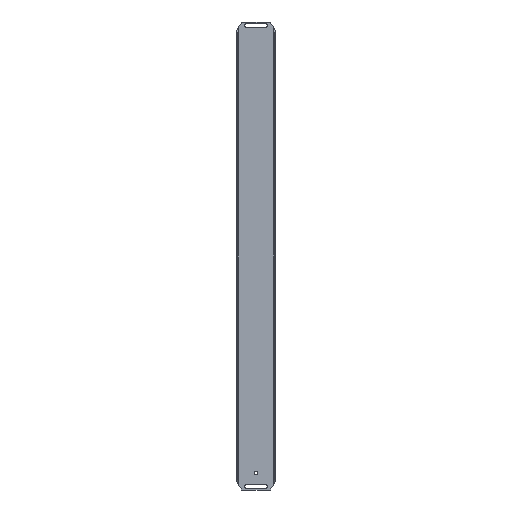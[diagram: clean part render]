
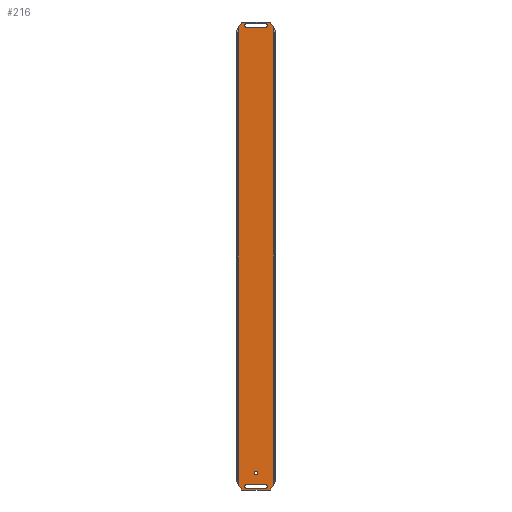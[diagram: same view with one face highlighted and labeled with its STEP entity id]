
A CAD part, front view. The second image highlights one B-rep face of the part: STEP entity #216.
In plain terms, the highlighted planar face has unit normal (0, -1, 0).
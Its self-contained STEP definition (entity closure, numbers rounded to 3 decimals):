
#9 = FACE_OUTER_BOUND ( 'NONE', #36, .T. ) ;
#17 = LINE ( 'NONE', #1031, #84 ) ;
#24 = EDGE_CURVE ( 'NONE', #328, #1124, #952, .T. ) ;
#32 = LINE ( 'NONE', #330, #900 ) ;
#33 = CARTESIAN_POINT ( 'NONE',  ( -29.9, -1.2, -399.781 ) ) ;
#36 = EDGE_LOOP ( 'NONE', ( #551, #437, #402, #953, #1019, #409, #1159, #983 ) ) ;
#64 = CARTESIAN_POINT ( 'NONE',  ( 26.145, -1.2, -410.25 ) ) ;
#69 = EDGE_CURVE ( 'NONE', #169, #622, #184, .T. ) ;
#82 = CARTESIAN_POINT ( 'NONE',  ( 1.2, -1.2, -380.25 ) ) ;
#84 = VECTOR ( 'NONE', #1145, 1000. ) ;
#87 = VECTOR ( 'NONE', #392, 1000. ) ;
#102 = DIRECTION ( 'NONE',  ( 0., 1., 0. ) ) ;
#107 = VECTOR ( 'NONE', #1270, 1000. ) ;
#124 = CARTESIAN_POINT ( 'NONE',  ( -29.9, -1.2, 399.781 ) ) ;
#156 = LINE ( 'NONE', #1053, #1155 ) ;
#169 = VERTEX_POINT ( 'NONE', #195 ) ;
#171 = CIRCLE ( 'NONE', #217, 3.25 ) ;
#181 = EDGE_CURVE ( 'NONE', #1169, #227, #470, .T. ) ;
#182 = ORIENTED_EDGE ( 'NONE', *, *, #230, .T. ) ;
#184 = LINE ( 'NONE', #1200, #1212 ) ;
#190 = CARTESIAN_POINT ( 'NONE',  ( -15.55, -1.2, 407.5 ) ) ;
#195 = CARTESIAN_POINT ( 'NONE',  ( 32.3, -1.2, 399.781 ) ) ;
#202 = LINE ( 'NONE', #124, #1323 ) ;
#204 = FACE_BOUND ( 'NONE', #1264, .T. ) ;
#208 = VERTEX_POINT ( 'NONE', #1320 ) ;
#214 = LINE ( 'NONE', #190, #924 ) ;
#216 = ADVANCED_FACE ( 'NONE', ( #549, #296, #204, #9 ), #716, .T. ) ;
#217 = AXIS2_PLACEMENT_3D ( 'NONE', #1015, #102, #820 ) ;
#219 = CIRCLE ( 'NONE', #550, 3.25 ) ;
#222 = VECTOR ( 'NONE', #567, 1000. ) ;
#227 = VERTEX_POINT ( 'NONE', #938 ) ;
#230 = EDGE_CURVE ( 'NONE', #1245, #248, #171, .T. ) ;
#248 = VERTEX_POINT ( 'NONE', #416 ) ;
#253 = EDGE_CURVE ( 'NONE', #623, #306, #17, .T. ) ;
#270 = DIRECTION ( 'NONE',  ( -1., 0., 0. ) ) ;
#271 = LINE ( 'NONE', #676, #318 ) ;
#276 = ORIENTED_EDGE ( 'NONE', *, *, #253, .T. ) ;
#289 = CARTESIAN_POINT ( 'NONE',  ( 17.95, -1.2, -404.25 ) ) ;
#296 = FACE_BOUND ( 'NONE', #785, .T. ) ;
#298 = CARTESIAN_POINT ( 'NONE',  ( -23.745, -1.2, 410.25 ) ) ;
#306 = VERTEX_POINT ( 'NONE', #733 ) ;
#318 = VECTOR ( 'NONE', #999, 1000. ) ;
#328 = VERTEX_POINT ( 'NONE', #520 ) ;
#330 = CARTESIAN_POINT ( 'NONE',  ( 32.3, -1.2, 399.781 ) ) ;
#356 = DIRECTION ( 'NONE',  ( 0., 0., -1. ) ) ;
#359 = VERTEX_POINT ( 'NONE', #64 ) ;
#392 = DIRECTION ( 'NONE',  ( 0., 0., 1. ) ) ;
#399 = CARTESIAN_POINT ( 'NONE',  ( -15.55, -1.2, -404.25 ) ) ;
#402 = ORIENTED_EDGE ( 'NONE', *, *, #1109, .F. ) ;
#409 = ORIENTED_EDGE ( 'NONE', *, *, #649, .T. ) ;
#416 = CARTESIAN_POINT ( 'NONE',  ( 17.95, -1.2, 401. ) ) ;
#418 = CARTESIAN_POINT ( 'NONE',  ( -15.55, -1.2, 401. ) ) ;
#423 = CIRCLE ( 'NONE', #1298, 3.25 ) ;
#433 = VERTEX_POINT ( 'NONE', #1265 ) ;
#437 = ORIENTED_EDGE ( 'NONE', *, *, #836, .T. ) ;
#438 = EDGE_CURVE ( 'NONE', #248, #1062, #1173, .T. ) ;
#470 = LINE ( 'NONE', #881, #741 ) ;
#493 = ORIENTED_EDGE ( 'NONE', *, *, #438, .T. ) ;
#520 = CARTESIAN_POINT ( 'NONE',  ( -29.9, -1.2, -399.781 ) ) ;
#549 = FACE_BOUND ( 'NONE', #1178, .T. ) ;
#550 = AXIS2_PLACEMENT_3D ( 'NONE', #399, #788, #795 ) ;
#551 = ORIENTED_EDGE ( 'NONE', *, *, #1043, .F. ) ;
#560 = EDGE_CURVE ( 'NONE', #227, #623, #219, .T. ) ;
#567 = DIRECTION ( 'NONE',  ( 1., 0., 0. ) ) ;
#589 = ORIENTED_EDGE ( 'NONE', *, *, #181, .T. ) ;
#593 = CARTESIAN_POINT ( 'NONE',  ( 26.145, -1.2, 410.25 ) ) ;
#599 = EDGE_CURVE ( 'NONE', #754, #433, #423, .T. ) ;
#603 = CARTESIAN_POINT ( 'NONE',  ( 0., -1.2, 0. ) ) ;
#616 = AXIS2_PLACEMENT_3D ( 'NONE', #289, #895, #793 ) ;
#622 = VERTEX_POINT ( 'NONE', #702 ) ;
#623 = VERTEX_POINT ( 'NONE', #808 ) ;
#635 = CIRCLE ( 'NONE', #616, 3.25 ) ;
#649 = EDGE_CURVE ( 'NONE', #359, #622, #271, .T. ) ;
#676 = CARTESIAN_POINT ( 'NONE',  ( 32.3, -1.2, -399.781 ) ) ;
#678 = VECTOR ( 'NONE', #270, 1000. ) ;
#683 = EDGE_CURVE ( 'NONE', #306, #1169, #635, .T. ) ;
#685 = ORIENTED_EDGE ( 'NONE', *, *, #886, .F. ) ;
#691 = DIRECTION ( 'NONE',  ( -1., 0., 0. ) ) ;
#693 = CARTESIAN_POINT ( 'NONE',  ( -15.55, -1.2, 404.25 ) ) ;
#701 = DIRECTION ( 'NONE',  ( 1., 0., 0. ) ) ;
#702 = CARTESIAN_POINT ( 'NONE',  ( 32.3, -1.2, -399.781 ) ) ;
#706 = CARTESIAN_POINT ( 'NONE',  ( 1.2, -1.2, -383.5 ) ) ;
#708 = DIRECTION ( 'NONE',  ( 0., -1., 0. ) ) ;
#709 = EDGE_CURVE ( 'NONE', #1062, #208, #810, .T. ) ;
#716 = PLANE ( 'NONE',  #1190 ) ;
#720 = ORIENTED_EDGE ( 'NONE', *, *, #1143, .T. ) ;
#724 = AXIS2_PLACEMENT_3D ( 'NONE', #1046, #1161, #356 ) ;
#725 = DIRECTION ( 'NONE',  ( 0., 0., -1. ) ) ;
#733 = CARTESIAN_POINT ( 'NONE',  ( 17.95, -1.2, -401. ) ) ;
#741 = VECTOR ( 'NONE', #691, 1000. ) ;
#754 = VERTEX_POINT ( 'NONE', #706 ) ;
#785 = EDGE_LOOP ( 'NONE', ( #1278, #720, #182, #493 ) ) ;
#788 = DIRECTION ( 'NONE',  ( 0., 1., 0. ) ) ;
#790 = AXIS2_PLACEMENT_3D ( 'NONE', #693, #815, #1215 ) ;
#793 = DIRECTION ( 'NONE',  ( 0., 0., 1. ) ) ;
#795 = DIRECTION ( 'NONE',  ( 0., 0., 1. ) ) ;
#798 = DIRECTION ( 'NONE',  ( 0., 0., -1. ) ) ;
#808 = CARTESIAN_POINT ( 'NONE',  ( -15.55, -1.2, -401. ) ) ;
#810 = CIRCLE ( 'NONE', #790, 3.25 ) ;
#811 = DIRECTION ( 'NONE',  ( -0.507, 0., -0.862 ) ) ;
#815 = DIRECTION ( 'NONE',  ( 0., 1., 0. ) ) ;
#820 = DIRECTION ( 'NONE',  ( 0., 0., 1. ) ) ;
#822 = CARTESIAN_POINT ( 'NONE',  ( -29.9, -1.2, -399.781 ) ) ;
#836 = EDGE_CURVE ( 'NONE', #1211, #858, #202, .T. ) ;
#837 = DIRECTION ( 'NONE',  ( -0.507, 0., 0.862 ) ) ;
#858 = VERTEX_POINT ( 'NONE', #937 ) ;
#872 = ORIENTED_EDGE ( 'NONE', *, *, #560, .T. ) ;
#881 = CARTESIAN_POINT ( 'NONE',  ( -15.55, -1.2, -407.5 ) ) ;
#882 = CARTESIAN_POINT ( 'NONE',  ( -29.9, -1.2, 410.25 ) ) ;
#886 = EDGE_CURVE ( 'NONE', #433, #754, #1106, .T. ) ;
#895 = DIRECTION ( 'NONE',  ( 0., 1., 0. ) ) ;
#900 = VECTOR ( 'NONE', #837, 1000. ) ;
#902 = EDGE_CURVE ( 'NONE', #359, #1124, #156, .T. ) ;
#924 = VECTOR ( 'NONE', #701, 1000. ) ;
#937 = CARTESIAN_POINT ( 'NONE',  ( -29.9, -1.2, 399.781 ) ) ;
#938 = CARTESIAN_POINT ( 'NONE',  ( -15.55, -1.2, -407.5 ) ) ;
#946 = ORIENTED_EDGE ( 'NONE', *, *, #683, .T. ) ;
#952 = LINE ( 'NONE', #33, #107 ) ;
#953 = ORIENTED_EDGE ( 'NONE', *, *, #24, .T. ) ;
#966 = CARTESIAN_POINT ( 'NONE',  ( 17.95, -1.2, 407.5 ) ) ;
#983 = ORIENTED_EDGE ( 'NONE', *, *, #1284, .T. ) ;
#996 = LINE ( 'NONE', #882, #222 ) ;
#999 = DIRECTION ( 'NONE',  ( 0.507, 0., 0.862 ) ) ;
#1005 = CARTESIAN_POINT ( 'NONE',  ( 17.95, -1.2, -407.5 ) ) ;
#1015 = CARTESIAN_POINT ( 'NONE',  ( 17.95, -1.2, 404.25 ) ) ;
#1019 = ORIENTED_EDGE ( 'NONE', *, *, #902, .F. ) ;
#1031 = CARTESIAN_POINT ( 'NONE',  ( -15.55, -1.2, -401. ) ) ;
#1043 = EDGE_CURVE ( 'NONE', #1211, #1152, #996, .T. ) ;
#1046 = CARTESIAN_POINT ( 'NONE',  ( 1.2, -1.2, -380.25 ) ) ;
#1052 = ORIENTED_EDGE ( 'NONE', *, *, #599, .F. ) ;
#1053 = CARTESIAN_POINT ( 'NONE',  ( -29.9, -1.2, -410.25 ) ) ;
#1062 = VERTEX_POINT ( 'NONE', #418 ) ;
#1106 = CIRCLE ( 'NONE', #724, 3.25 ) ;
#1109 = EDGE_CURVE ( 'NONE', #328, #858, #1322, .T. ) ;
#1120 = DIRECTION ( 'NONE',  ( 0., -1., 0. ) ) ;
#1124 = VERTEX_POINT ( 'NONE', #1208 ) ;
#1143 = EDGE_CURVE ( 'NONE', #208, #1245, #214, .T. ) ;
#1145 = DIRECTION ( 'NONE',  ( 1., 0., 0. ) ) ;
#1152 = VERTEX_POINT ( 'NONE', #593 ) ;
#1155 = VECTOR ( 'NONE', #1167, 1000. ) ;
#1159 = ORIENTED_EDGE ( 'NONE', *, *, #69, .F. ) ;
#1161 = DIRECTION ( 'NONE',  ( 0., -1., 0. ) ) ;
#1167 = DIRECTION ( 'NONE',  ( -1., 0., 0. ) ) ;
#1169 = VERTEX_POINT ( 'NONE', #1005 ) ;
#1173 = LINE ( 'NONE', #1184, #678 ) ;
#1178 = EDGE_LOOP ( 'NONE', ( #685, #1052 ) ) ;
#1184 = CARTESIAN_POINT ( 'NONE',  ( -15.55, -1.2, 401. ) ) ;
#1190 = AXIS2_PLACEMENT_3D ( 'NONE', #603, #1120, #725 ) ;
#1196 = DIRECTION ( 'NONE',  ( 0., 0., -1. ) ) ;
#1200 = CARTESIAN_POINT ( 'NONE',  ( 32.3, -1.2, 399.781 ) ) ;
#1208 = CARTESIAN_POINT ( 'NONE',  ( -23.745, -1.2, -410.25 ) ) ;
#1211 = VERTEX_POINT ( 'NONE', #298 ) ;
#1212 = VECTOR ( 'NONE', #798, 1000. ) ;
#1215 = DIRECTION ( 'NONE',  ( 0., 0., 1. ) ) ;
#1245 = VERTEX_POINT ( 'NONE', #966 ) ;
#1264 = EDGE_LOOP ( 'NONE', ( #872, #276, #946, #589 ) ) ;
#1265 = CARTESIAN_POINT ( 'NONE',  ( 1.2, -1.2, -377. ) ) ;
#1270 = DIRECTION ( 'NONE',  ( 0.507, 0., -0.862 ) ) ;
#1278 = ORIENTED_EDGE ( 'NONE', *, *, #709, .T. ) ;
#1284 = EDGE_CURVE ( 'NONE', #169, #1152, #32, .T. ) ;
#1298 = AXIS2_PLACEMENT_3D ( 'NONE', #82, #708, #1196 ) ;
#1320 = CARTESIAN_POINT ( 'NONE',  ( -15.55, -1.2, 407.5 ) ) ;
#1322 = LINE ( 'NONE', #822, #87 ) ;
#1323 = VECTOR ( 'NONE', #811, 1000. ) ;
